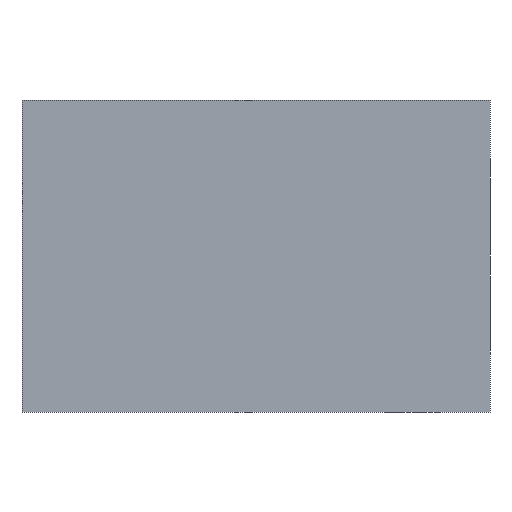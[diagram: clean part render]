
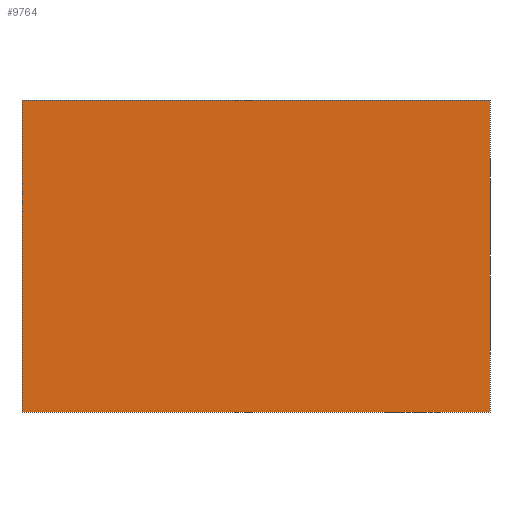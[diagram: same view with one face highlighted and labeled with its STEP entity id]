
A CAD part, left-side view. The second image highlights one B-rep face of the part: STEP entity #9764.
In plain terms, the highlighted planar face has unit normal (-1, 0, 0).
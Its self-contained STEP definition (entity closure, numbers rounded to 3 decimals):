
#19=DIRECTION('',(0.,-1.,0.));
#20=VECTOR('',#19,60.);
#21=CARTESIAN_POINT('',(-30.,30.,-20.));
#22=LINE('',#21,#20);
#80=DIRECTION('',(0.,0.,1.));
#81=VECTOR('',#80,40.);
#82=CARTESIAN_POINT('',(-30.,30.,-20.));
#83=LINE('',#82,#81);
#133=DIRECTION('',(0.,0.,1.));
#134=VECTOR('',#133,40.);
#135=CARTESIAN_POINT('',(-30.,-30.,-20.));
#136=LINE('',#135,#134);
#156=DIRECTION('',(0.,-1.,0.));
#157=VECTOR('',#156,60.);
#158=CARTESIAN_POINT('',(-30.,30.,20.));
#159=LINE('',#158,#157);
#8214=CARTESIAN_POINT('',(-30.,30.,-20.));
#8215=CARTESIAN_POINT('',(-30.,-30.,-20.));
#8216=VERTEX_POINT('',#8214);
#8217=VERTEX_POINT('',#8215);
#8222=CARTESIAN_POINT('',(-30.,30.,20.));
#8223=CARTESIAN_POINT('',(-30.,-30.,20.));
#8224=VERTEX_POINT('',#8222);
#8225=VERTEX_POINT('',#8223);
#9750=CARTESIAN_POINT('',(-30.,30.,-20.));
#9751=DIRECTION('',(-1.,0.,0.));
#9752=DIRECTION('',(0.,-1.,0.));
#9753=AXIS2_PLACEMENT_3D('',#9750,#9751,#9752);
#9754=PLANE('',#9753);
#9755=ORIENTED_EDGE('',*,*,#9727,.F.);
#9757=ORIENTED_EDGE('',*,*,#9756,.T.);
#9759=ORIENTED_EDGE('',*,*,#9758,.T.);
#9761=ORIENTED_EDGE('',*,*,#9760,.F.);
#9762=EDGE_LOOP('',(#9755,#9757,#9759,#9761));
#9763=FACE_OUTER_BOUND('',#9762,.F.);
#9727=EDGE_CURVE('',#8216,#8217,#22,.T.);
#9756=EDGE_CURVE('',#8216,#8224,#83,.T.);
#9758=EDGE_CURVE('',#8224,#8225,#159,.T.);
#9760=EDGE_CURVE('',#8217,#8225,#136,.T.);
#9764=ADVANCED_FACE('',(#9763),#9754,.T.);
